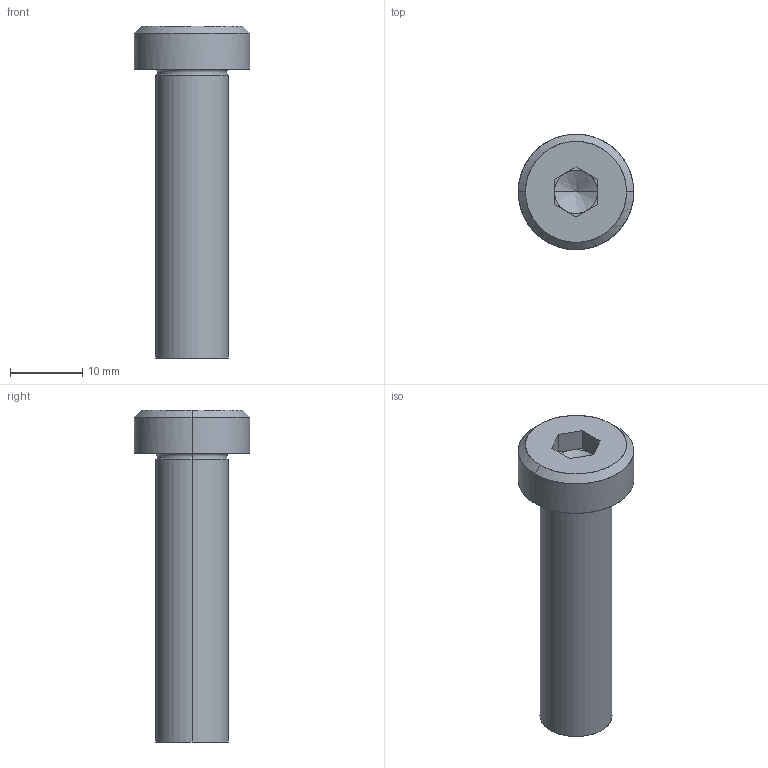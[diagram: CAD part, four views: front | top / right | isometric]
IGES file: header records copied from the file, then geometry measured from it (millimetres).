
Global section: file name: E:\UnigraphicsGraphicData\MISUMI_PRESS-PARTS\IGES\3d_sbtcn10-40_05124_r00.igs; native system: NX V5.0; preprocessor: UGS NX IGES V5.0; author: MISUMI; date: 20110105.162452; units: millimetre
Bounding box: 16 x 16 x 46 mm (x, y, z)
Surface area: 2315.3 mm2 (no closed solid volume)
Topology: 0 solids, 0 shells, 34 faces, 180 edges, 176 vertices
Faces by surface type: bspline 34
